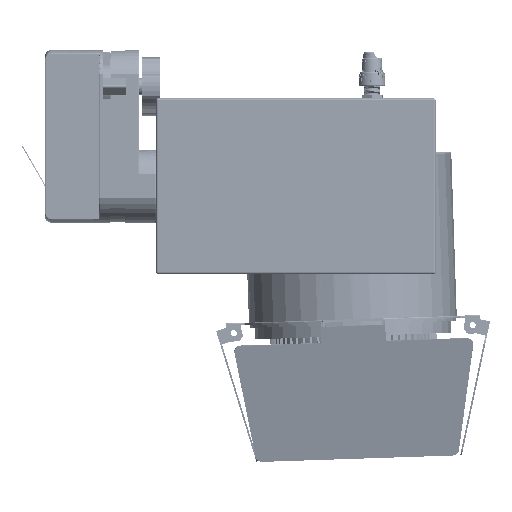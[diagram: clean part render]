
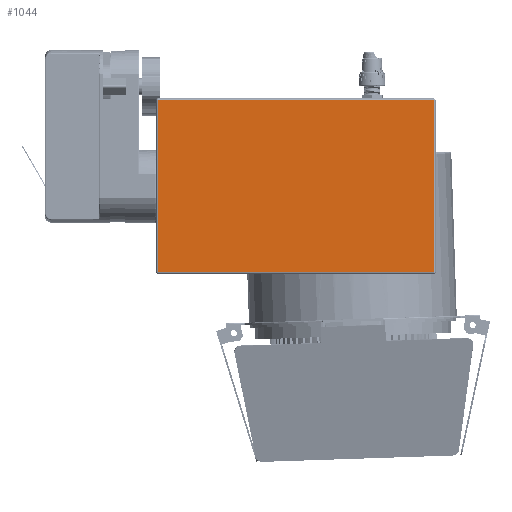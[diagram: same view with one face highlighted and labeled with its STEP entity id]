
A CAD part, left-side view. The second image highlights one B-rep face of the part: STEP entity #1044.
In plain terms, the highlighted planar face has unit normal (-1, 0, 0).
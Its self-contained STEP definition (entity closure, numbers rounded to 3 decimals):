
#1044 = ADVANCED_FACE ( 'NONE', ( #25240 ), #69949, .F. ) ;
#4135 = EDGE_CURVE ( 'NONE', #101329, #106587, #45522, .T. ) ;
#17645 = DIRECTION ( 'NONE',  ( 0., 0., -1. ) ) ;
#18215 = ORIENTED_EDGE ( 'NONE', *, *, #4135, .T. ) ;
#21334 = VERTEX_POINT ( 'NONE', #71599 ) ;
#21374 = EDGE_CURVE ( 'NONE', #106587, #24982, #46621, .T. ) ;
#24982 = VERTEX_POINT ( 'NONE', #62862 ) ;
#25240 = FACE_OUTER_BOUND ( 'NONE', #80194, .T. ) ;
#30550 = CARTESIAN_POINT ( 'NONE',  ( -22.6, 134.5, 41.3 ) ) ;
#37007 = VECTOR ( 'NONE', #47974, 1000. ) ;
#45522 = LINE ( 'NONE', #47257, #112000 ) ;
#46621 = LINE ( 'NONE', #73902, #78742 ) ;
#47257 = CARTESIAN_POINT ( 'NONE',  ( -22.6, 134.5, -41.3 ) ) ;
#47974 = DIRECTION ( 'NONE',  ( 0., 1., 0. ) ) ;
#48199 = VECTOR ( 'NONE', #113419, 1000. ) ;
#51363 = LINE ( 'NONE', #58362, #48199 ) ;
#58362 = CARTESIAN_POINT ( 'NONE',  ( -22.6, 133.5, 42.3 ) ) ;
#62862 = CARTESIAN_POINT ( 'NONE',  ( -22.6, 1., 41.3 ) ) ;
#69949 = PLANE ( 'NONE',  #70850 ) ;
#70092 = LINE ( 'NONE', #30550, #37007 ) ;
#70850 = AXIS2_PLACEMENT_3D ( 'NONE', #114589, #86784, #17645 ) ;
#71599 = CARTESIAN_POINT ( 'NONE',  ( -22.6, 133.5, 41.3 ) ) ;
#71657 = DIRECTION ( 'NONE',  ( 0., -1., 0. ) ) ;
#73537 = ORIENTED_EDGE ( 'NONE', *, *, #107500, .T. ) ;
#73902 = CARTESIAN_POINT ( 'NONE',  ( -22.6, 1., 42.3 ) ) ;
#78742 = VECTOR ( 'NONE', #82638, 1000. ) ;
#80194 = EDGE_LOOP ( 'NONE', ( #99359, #73537, #97055, #18215 ) ) ;
#82638 = DIRECTION ( 'NONE',  ( 0., 0., 1. ) ) ;
#85986 = CARTESIAN_POINT ( 'NONE',  ( -22.6, 1., -41.3 ) ) ;
#86784 = DIRECTION ( 'NONE',  ( 1., 0., 0. ) ) ;
#97055 = ORIENTED_EDGE ( 'NONE', *, *, #108317, .T. ) ;
#99359 = ORIENTED_EDGE ( 'NONE', *, *, #21374, .T. ) ;
#101329 = VERTEX_POINT ( 'NONE', #109576 ) ;
#106587 = VERTEX_POINT ( 'NONE', #85986 ) ;
#107500 = EDGE_CURVE ( 'NONE', #24982, #21334, #70092, .T. ) ;
#108317 = EDGE_CURVE ( 'NONE', #21334, #101329, #51363, .T. ) ;
#109576 = CARTESIAN_POINT ( 'NONE',  ( -22.6, 133.5, -41.3 ) ) ;
#112000 = VECTOR ( 'NONE', #71657, 1000. ) ;
#113419 = DIRECTION ( 'NONE',  ( 0., 0., -1. ) ) ;
#114589 = CARTESIAN_POINT ( 'NONE',  ( -22.6, 134.5, 42.3 ) ) ;
